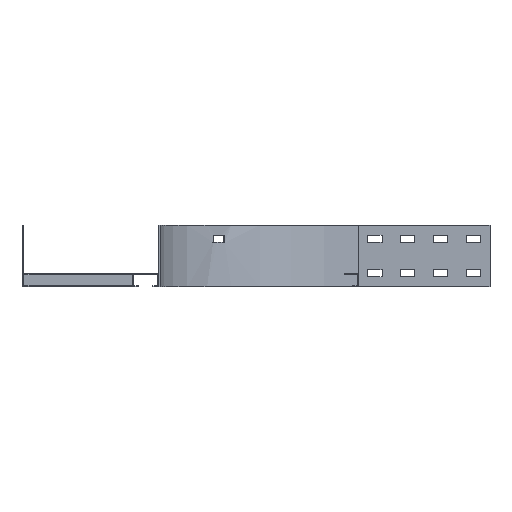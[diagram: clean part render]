
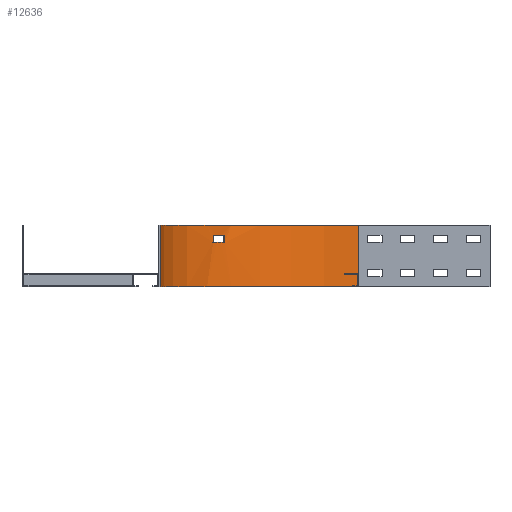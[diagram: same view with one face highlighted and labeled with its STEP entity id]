
A CAD part, left-side view. The second image highlights one B-rep face of the part: STEP entity #12636.
In plain terms, the highlighted cylindrical face has radius 300 mm (diameter 600 mm), a partial arc.
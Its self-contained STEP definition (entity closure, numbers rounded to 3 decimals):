
#331=FACE_BOUND('',#1783,.T.);
#569=CYLINDRICAL_SURFACE('',#13309,300.);
#612=CIRCLE('',#13308,300.);
#613=CIRCLE('',#13310,300.);
#614=CIRCLE('',#13311,300.);
#615=CIRCLE('',#13312,300.);
#1132=FACE_OUTER_BOUND('',#1782,.T.);
#1782=EDGE_LOOP('',(#8545,#8546,#8547,#8548));
#1783=EDGE_LOOP('',(#8549,#8550,#8551,#8552));
#2670=LINE('',#17601,#4026);
#2676=LINE('',#17613,#4032);
#2677=LINE('',#17623,#4033);
#2678=LINE('',#17626,#4034);
#4026=VECTOR('',#14312,304.8);
#4032=VECTOR('',#14320,304.8);
#4033=VECTOR('',#14333,304.8);
#4034=VECTOR('',#14336,304.8);
#5382=VERTEX_POINT('',#17598);
#5383=VERTEX_POINT('',#17600);
#5385=VERTEX_POINT('',#17606);
#5388=VERTEX_POINT('',#17611);
#5389=VERTEX_POINT('',#17619);
#5390=VERTEX_POINT('',#17620);
#5391=VERTEX_POINT('',#17622);
#5392=VERTEX_POINT('',#17624);
#6638=EDGE_CURVE('',#5382,#5383,#2670,.T.);
#6644=EDGE_CURVE('',#5388,#5385,#2676,.T.);
#6646=EDGE_CURVE('',#5385,#5382,#612,.T.);
#6647=EDGE_CURVE('',#5388,#5383,#613,.T.);
#6648=EDGE_CURVE('',#5389,#5390,#614,.T.);
#6649=EDGE_CURVE('',#5390,#5391,#2677,.T.);
#6650=EDGE_CURVE('',#5391,#5392,#615,.T.);
#6651=EDGE_CURVE('',#5392,#5389,#2678,.T.);
#8545=ORIENTED_EDGE('',*,*,#6638,.F.);
#8546=ORIENTED_EDGE('',*,*,#6646,.F.);
#8547=ORIENTED_EDGE('',*,*,#6644,.F.);
#8548=ORIENTED_EDGE('',*,*,#6647,.T.);
#8549=ORIENTED_EDGE('',*,*,#6648,.T.);
#8550=ORIENTED_EDGE('',*,*,#6649,.T.);
#8551=ORIENTED_EDGE('',*,*,#6650,.T.);
#8552=ORIENTED_EDGE('',*,*,#6651,.T.);
#12636=ADVANCED_FACE('',(#1132,#331),#569,.F.);
#13308=AXIS2_PLACEMENT_3D('',#17616,#14325,#14326);
#13309=AXIS2_PLACEMENT_3D('',#17617,#14327,#14328);
#13310=AXIS2_PLACEMENT_3D('',#17618,#14329,#14330);
#13311=AXIS2_PLACEMENT_3D('',#17621,#14331,#14332);
#13312=AXIS2_PLACEMENT_3D('',#17625,#14334,#14335);
#14312=DIRECTION('',(0.,0.,-1.));
#14320=DIRECTION('',(0.,0.,1.));
#14325=DIRECTION('center_axis',(0.,0.,-1.));
#14326=DIRECTION('ref_axis',(1.,0.,0.));
#14327=DIRECTION('center_axis',(0.,0.,1.));
#14328=DIRECTION('ref_axis',(1.,0.,0.));
#14329=DIRECTION('center_axis',(0.,0.,-1.));
#14330=DIRECTION('ref_axis',(1.,0.,0.));
#14331=DIRECTION('center_axis',(0.,0.,-1.));
#14332=DIRECTION('ref_axis',(1.,0.,0.));
#14333=DIRECTION('',(0.,0.,-1.));
#14334=DIRECTION('center_axis',(0.,0.,1.));
#14335=DIRECTION('ref_axis',(1.,0.,0.));
#14336=DIRECTION('',(0.,0.,1.));
#17598=CARTESIAN_POINT('',(-105.5,-405.5,47.));
#17600=CARTESIAN_POINT('',(-105.5,-405.5,-47.));
#17601=CARTESIAN_POINT('',(-105.5,-405.5,47.));
#17606=CARTESIAN_POINT('',(-405.5,-105.5,47.));
#17611=CARTESIAN_POINT('',(-405.5,-105.5,-47.));
#17613=CARTESIAN_POINT('',(-405.5,-105.5,-47.));
#17616=CARTESIAN_POINT('Origin',(-405.5,-405.5,47.));
#17617=CARTESIAN_POINT('Origin',(-405.5,-405.5,0.));
#17618=CARTESIAN_POINT('Origin',(-405.5,-405.5,-47.));
#17619=CARTESIAN_POINT('',(-202.279,-184.816,31.5));
#17620=CARTESIAN_POINT('',(-184.611,-202.503,31.5));
#17621=CARTESIAN_POINT('Origin',(-405.5,-405.5,31.5));
#17622=CARTESIAN_POINT('',(-184.611,-202.503,20.5));
#17623=CARTESIAN_POINT('',(-184.611,-202.503,31.5));
#17624=CARTESIAN_POINT('',(-202.279,-184.816,20.5));
#17625=CARTESIAN_POINT('Origin',(-405.5,-405.5,20.5));
#17626=CARTESIAN_POINT('',(-202.279,-184.816,20.5));
